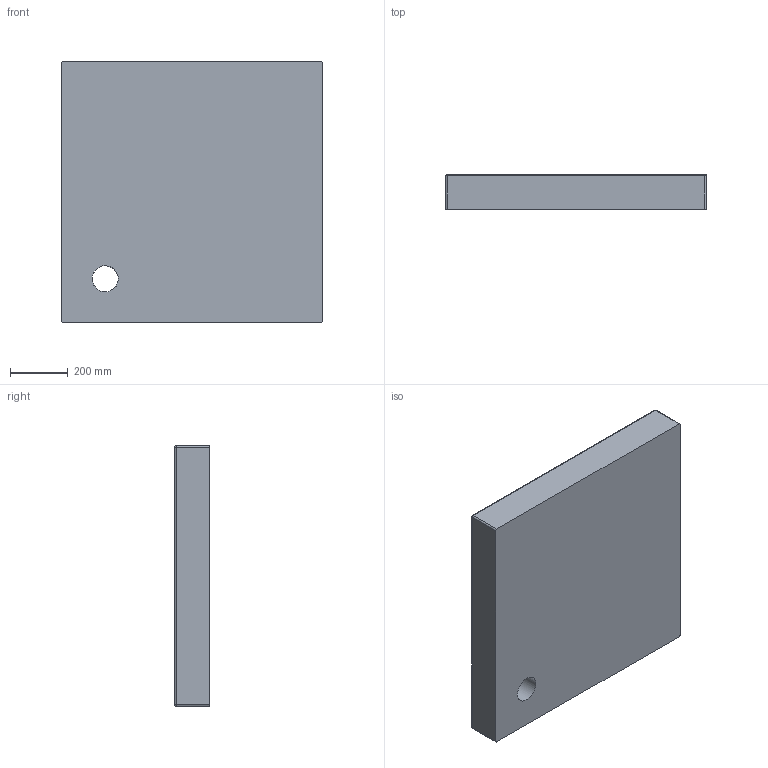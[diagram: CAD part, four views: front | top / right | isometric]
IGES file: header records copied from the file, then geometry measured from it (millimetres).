
Global section: file name: 2cdc4f08-3d8a-4a78-9de5-22e132e0cb12; native system: unknown; preprocessor: unknown; author: unknown; organization: unknown; date: 20200103.094401; units: millimetre
Bounding box: 900 x 120 x 900 mm (x, y, z)
Volume: 83321106 mm3; surface area: 2107927.2 mm2
Topology: 1 solids, 1 shells, 47 faces, 97 edges, 53 vertices
Faces by surface type: bspline 47
